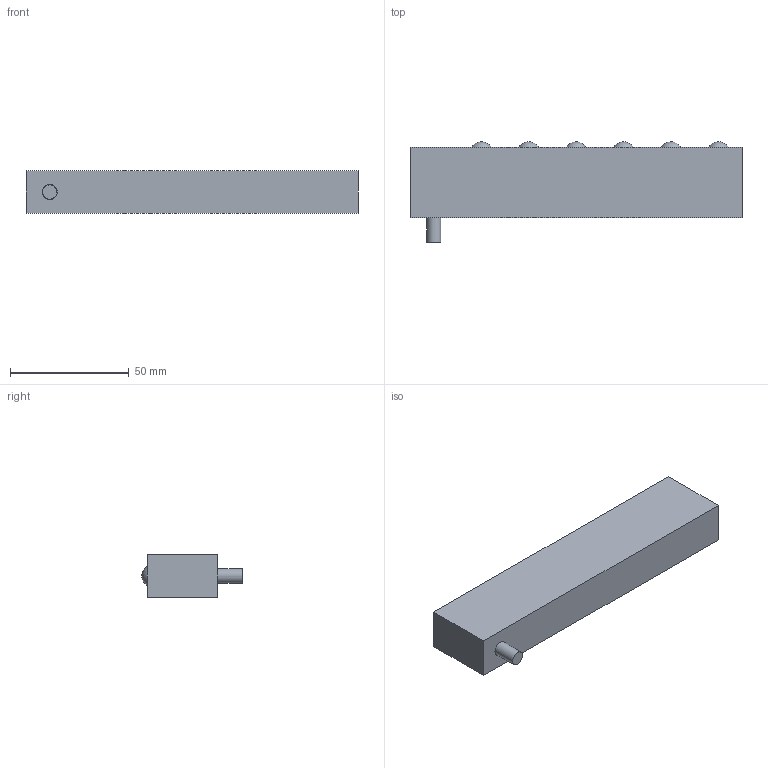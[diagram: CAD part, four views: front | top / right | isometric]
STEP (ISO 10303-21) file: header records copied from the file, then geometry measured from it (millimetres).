
FILE_DESCRIPTION(/* description */ (''),/* implementation_level */ '2;1');
FILE_NAME(/* name */ 'V:\Shrinkwrap\EMB\EMB - SHRINKWRAP\EMB18-6_Shrinkwrap_1.stp',/* time_stamp */ '2022-08-12T09:51:39+02:00',/* author */ ('cw'),/* organization */ (''),/* preprocessor_version */ 'ST-DEVELOPER v17',/* originating_system */ 'Autodesk Inventor 2019',/* authorisation */ '');
FILE_SCHEMA (('AUTOMOTIVE_DESIGN { 1 0 10303 214 3 1 1 }'));
Length unit declared in the file: millimetre
Products named in the file (1): EMB18-6_Shrinkwrap_1
Bounding box: 140 x 42.27 x 17.8 mm (x, y, z)
Volume: 73494.8 mm3; surface area: 15945.4 mm2
Topology: 1 solids, 1 shells, 20 faces, 34 edges, 28 vertices
Faces by surface type: plane 10, sphere 6, cylinder 4
Full cylindrical faces by diameter (mm): 6 x1, 6.5 x1, 10 x1, 11 x1
Entity records: 574 total; most frequent: DIRECTION 90, CARTESIAN_POINT 81, ORIENTED_EDGE 64, AXIS2_PLACEMENT_3D 37, EDGE_CURVE 32, EDGE_LOOP 30, VERTEX_POINT 24, STYLED_ITEM 23
